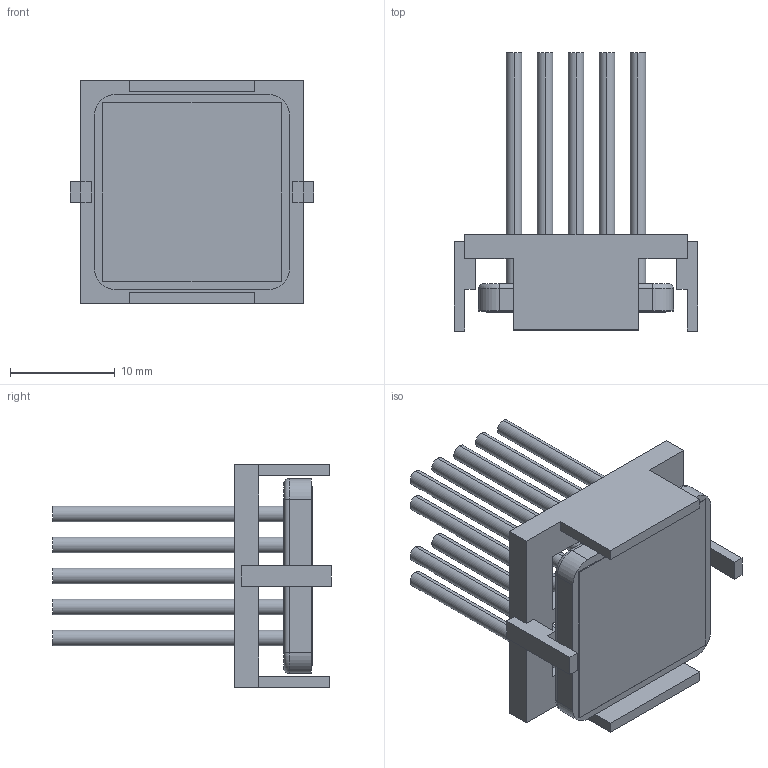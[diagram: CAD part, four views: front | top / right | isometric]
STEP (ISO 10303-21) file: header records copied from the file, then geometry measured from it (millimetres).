
FILE_DESCRIPTION (( 'STEP AP214' ), '1' );
FILE_NAME ('INM19002-25PCU-2.6BU.STEP', '2023-03-02T22:42:00', ( '' ), ( '' ), 'SwSTEP 2.0', 'SolidWorks 2020', '' );
FILE_SCHEMA (( 'AUTOMOTIVE_DESIGN' ));
Length unit declared in the file: millimetre
Products named in the file (1): INM19002-25PCU-2.6BU
Bounding box: 23.2 x 26.5 x 21.2 mm (x, y, z)
Volume: 2581.1 mm3; surface area: 5019.3 mm2
Topology: 3 solids, 3 shells, 133 faces, 310 edges, 204 vertices
Faces by surface type: plane 79, cylinder 50, torus 4
Entity records: 5323 total; most frequent: DIRECTION 682, CARTESIAN_POINT 648, ORIENTED_EDGE 620, EDGE_CURVE 310, AXIS2_PLACEMENT_3D 238, VECTOR 206, LINE 206, VERTEX_POINT 204
